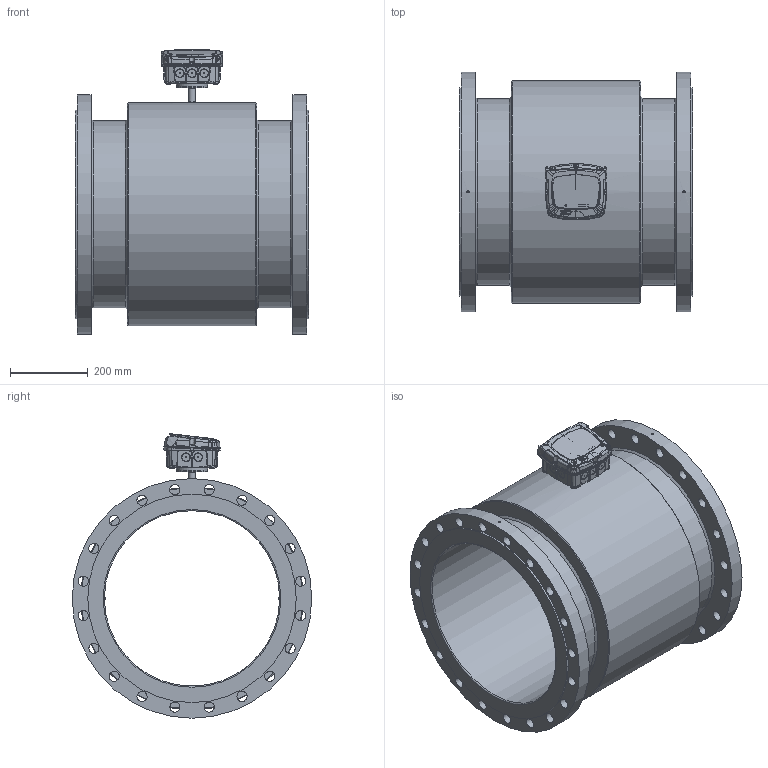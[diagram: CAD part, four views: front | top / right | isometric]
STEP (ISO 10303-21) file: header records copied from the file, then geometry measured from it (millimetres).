
FILE_DESCRIPTION((''),'2;1');
FILE_NAME('C:\Users\Claus\Dropbox\Projects 2011 - 2012\MJK Automation AS\DN 450 - DIN EN-1095-1.stp','2014-10-24T15:12:04',('Claus'),(''),'Autodesk Inventor 2013','Autodesk Inventor 2013','');
FILE_SCHEMA(('AUTOMOTIVE_DESIGN { 1 0 10303 214 1 1 1 1 }'));
Length unit declared in the file: millimetre
Products named in the file (7): DN 450 - DIN EN-1095-1; FC_MagFlux_assembly_r1; CH Bund ml; FC Top rev 06.04; CH 03.02; Electrode group DN15 - DN32
Assembly tree (8 placements, depth 3):
  DN 450 - DIN EN-1095-1
    DN 450 - DIN EN-1095-1
    FC_MagFlux_assembly_r1
      CH Bund ml
      FC Top rev 06.04
      CH 03.02
    Electrode group DN15 - DN32  x3
Bounding box: 600 x 615 x 729.84 mm (x, y, z)
Volume: 46855237.8 mm3; surface area: 2844563.2 mm2
Topology: 10 solids, 10 shells, 2959 faces, 8066 edges, 5251 vertices
Faces by surface type: bspline 1752, plane 810, cylinder 234, cone 123, torus 25, revolution 9, sphere 6
Full cylindrical faces by diameter (mm): 2.5 x3, 3 x6, 4 x1, 6 x2, 6.5 x4, 7.042 x4, 8 x3, 8.048 x4, 12.072 x4, 15 x1, 18 x1, 18.108 x1, 26 x40, 64 x1, 450 x1, 480 x2, 535 x2, 572 x1, 615 x2
Entity records: 234882 total; most frequent: CARTESIAN_POINT 171690, ORIENTED_EDGE 15592, DIRECTION 7901, EDGE_CURVE 7796, VERTEX_POINT 5189, EDGE_LOOP 3369, VECTOR 3112, LINE 3112
